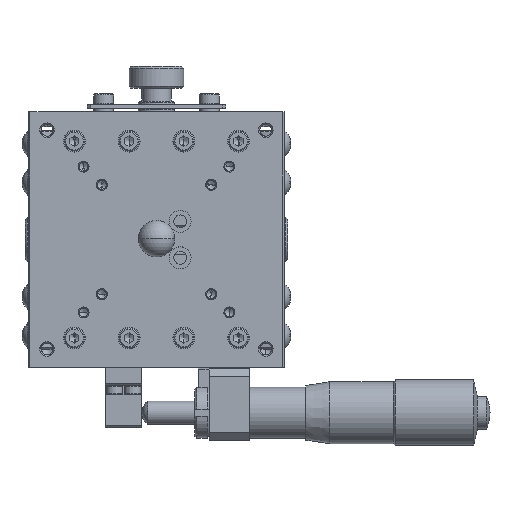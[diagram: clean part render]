
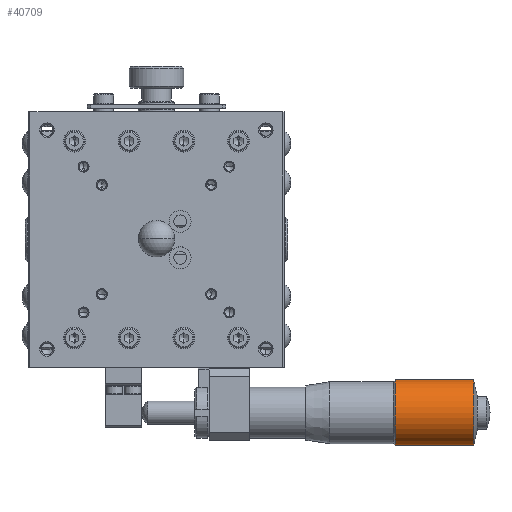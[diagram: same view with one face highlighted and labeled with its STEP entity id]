
A CAD part, top view. The second image highlights one B-rep face of the part: STEP entity #40709.
In plain terms, the highlighted cylindrical face has radius 9 mm (diameter 18 mm), a partial arc.
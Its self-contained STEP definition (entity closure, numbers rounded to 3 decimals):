
#40703 = EDGE_CURVE ( 'NONE', #40759, #40705, #50075, .T. ) ;
#40705 = VERTEX_POINT ( 'NONE', #50070 ) ;
#40709 = ADVANCED_FACE ( 'NONE', ( #50123 ), #50122, .T. ) ;
#40713 = EDGE_LOOP ( 'NONE', ( #40715, #40724, #40729, #40731 ) ) ;
#40715 = ORIENTED_EDGE ( 'NONE', *, *, #40717, .T. ) ;
#40717 = EDGE_CURVE ( 'NONE', #40720, #40722, #50116, .T. ) ;
#40720 = VERTEX_POINT ( 'NONE', #50112 ) ;
#40722 = VERTEX_POINT ( 'NONE', #50111 ) ;
#40724 = ORIENTED_EDGE ( 'NONE', *, *, #40726, .T. ) ;
#40726 = EDGE_CURVE ( 'NONE', #40722, #40705, #50110, .T. ) ;
#40729 = ORIENTED_EDGE ( 'NONE', *, *, #40703, .F. ) ;
#40731 = ORIENTED_EDGE ( 'NONE', *, *, #40824, .F. ) ;
#40759 = VERTEX_POINT ( 'NONE', #50149 ) ;
#40824 = EDGE_CURVE ( 'NONE', #40720, #40759, #49963, .T. ) ;
#49960 = VECTOR ( 'NONE', #50245, 1000. ) ;
#49962 = CARTESIAN_POINT ( 'NONE',  ( -2.669, -9., 0. ) ) ;
#49963 = LINE ( 'NONE', #49962, #49960 ) ;
#50070 = CARTESIAN_POINT ( 'NONE',  ( 69.5, 9., 0. ) ) ;
#50071 = DIRECTION ( 'NONE',  ( 0., -1., 0. ) ) ;
#50072 = DIRECTION ( 'NONE',  ( -1., 0., 0. ) ) ;
#50073 = CARTESIAN_POINT ( 'NONE',  ( 69.5, 0., 0. ) ) ;
#50074 = AXIS2_PLACEMENT_3D ( 'NONE', #50073, #50072, #50071 ) ;
#50075 = CIRCLE ( 'NONE', #50074, 9. ) ;
#50107 = DIRECTION ( 'NONE',  ( -1., 0., 0. ) ) ;
#50108 = VECTOR ( 'NONE', #50107, 1000. ) ;
#50109 = CARTESIAN_POINT ( 'NONE',  ( -2.669, 9., 0. ) ) ;
#50110 = LINE ( 'NONE', #50109, #50108 ) ;
#50111 = CARTESIAN_POINT ( 'NONE',  ( 91., 9., 0. ) ) ;
#50112 = CARTESIAN_POINT ( 'NONE',  ( 91., -9., 0. ) ) ;
#50113 = DIRECTION ( 'NONE',  ( 0., -1., 0. ) ) ;
#50114 = DIRECTION ( 'NONE',  ( -1., 0., 0. ) ) ;
#50115 = AXIS2_PLACEMENT_3D ( 'NONE', #50121, #50114, #50113 ) ;
#50116 = CIRCLE ( 'NONE', #50115, 9. ) ;
#50117 = DIRECTION ( 'NONE',  ( 0., -1., 0. ) ) ;
#50118 = DIRECTION ( 'NONE',  ( -1., 0., 0. ) ) ;
#50119 = CARTESIAN_POINT ( 'NONE',  ( -2.669, 0., 0. ) ) ;
#50120 = AXIS2_PLACEMENT_3D ( 'NONE', #50119, #50118, #50117 ) ;
#50121 = CARTESIAN_POINT ( 'NONE',  ( 91., 0., 0. ) ) ;
#50122 = CYLINDRICAL_SURFACE ( 'NONE', #50120, 9. ) ;
#50123 = FACE_OUTER_BOUND ( 'NONE', #40713, .T. ) ;
#50149 = CARTESIAN_POINT ( 'NONE',  ( 69.5, -9., 0. ) ) ;
#50245 = DIRECTION ( 'NONE',  ( -1., 0., 0. ) ) ;
